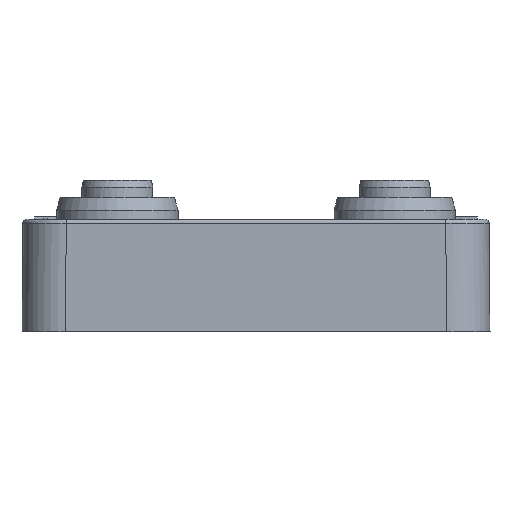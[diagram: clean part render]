
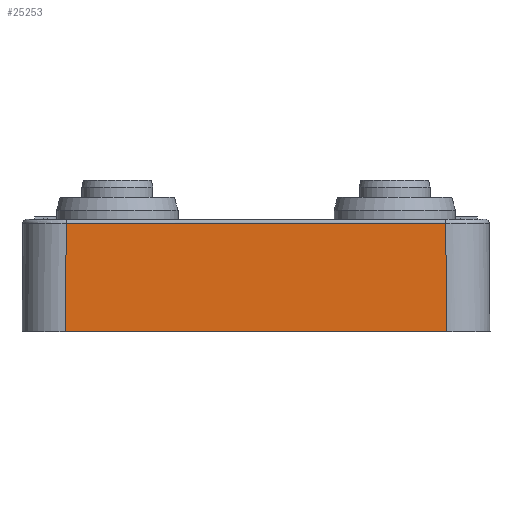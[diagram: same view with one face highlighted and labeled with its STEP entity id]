
A CAD part, front view. The second image highlights one B-rep face of the part: STEP entity #25253.
In plain terms, the highlighted planar face has unit normal (0, -1, 0.009).
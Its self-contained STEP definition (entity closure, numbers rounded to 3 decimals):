
#8447=CARTESIAN_POINT('',(22.,-53.,-13.));
#8448=VERTEX_POINT('',#8447);
#8456=CARTESIAN_POINT('',(-22.,-53.,-13.));
#8457=VERTEX_POINT('',#8456);
#8458=CARTESIAN_POINT('',(22.,-53.0,-13.0));
#8459=DIRECTION('',(-1.0,0.0,0.0));
#8460=VECTOR('',#8459,44.);
#8461=LINE('',#8458,#8460);
#8462=EDGE_CURVE('',#8448,#8457,#8461,.T.);
#25166=CARTESIAN_POINT('',(21.891,-52.891,-0.496));
#25167=VERTEX_POINT('',#25166);
#25186=CARTESIAN_POINT('',(-21.891,-52.891,-0.496));
#25187=VERTEX_POINT('',#25186);
#25198=CARTESIAN_POINT('',(-21.891,-52.891,-0.496));
#25199=DIRECTION('',(1.0,0.0,0.0));
#25200=VECTOR('',#25199,43.782);
#25201=LINE('',#25198,#25200);
#25202=EDGE_CURVE('',#25167,#25187,#25201,.F.);
#25228=CARTESIAN_POINT('',(21.891,-52.891,-0.496));
#25229=DIRECTION('',(0.009,-0.009,-1.));
#25230=VECTOR('',#25229,12.505);
#25231=LINE('',#25228,#25230);
#25232=EDGE_CURVE('',#8448,#25167,#25231,.F.);
#25237=CARTESIAN_POINT('',(-22.264,-52.743,16.404));
#25238=DIRECTION('',(0.0,1.,-0.009));
#25239=DIRECTION('',(0.0,0.009,1.));
#25240=AXIS2_PLACEMENT_3D('',#25237,#25238,#25239);
#25241=PLANE('',#25240);
#25242=ORIENTED_EDGE('',*,*,#25232,.T.);
#25243=ORIENTED_EDGE('',*,*,#25202,.T.);
#25244=CARTESIAN_POINT('',(-22.,-53.,-13.));
#25245=DIRECTION('',(0.009,0.009,1.));
#25246=VECTOR('',#25245,12.505);
#25247=LINE('',#25244,#25246);
#25248=EDGE_CURVE('',#25187,#8457,#25247,.F.);
#25249=ORIENTED_EDGE('',*,*,#25248,.T.);
#25250=ORIENTED_EDGE('',*,*,#8462,.F.);
#25251=EDGE_LOOP('',(#25242,#25243,#25249,#25250));
#25252=FACE_OUTER_BOUND('',#25251,.T.);
#25253=ADVANCED_FACE('',(#25252),#25241,.F.);
